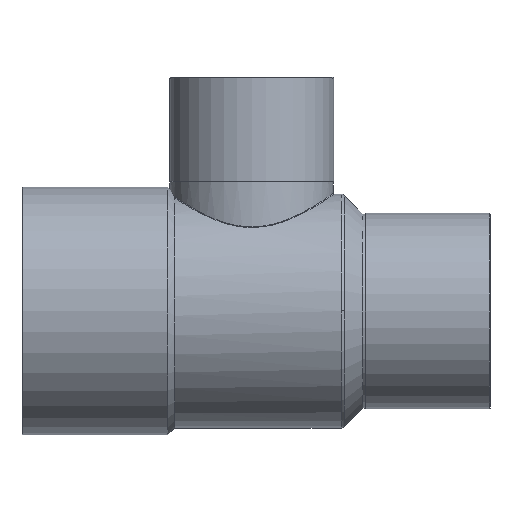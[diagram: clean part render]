
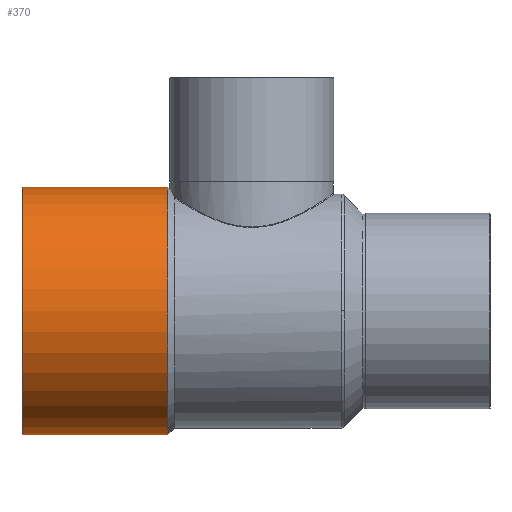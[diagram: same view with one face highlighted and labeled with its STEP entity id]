
A CAD part, top view. The second image highlights one B-rep face of the part: STEP entity #370.
In plain terms, the highlighted cylindrical face has radius 28.575 mm (diameter 57.15 mm), a partial arc.
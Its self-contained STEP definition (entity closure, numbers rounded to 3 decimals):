
#329=CARTESIAN_POINT('',(-36.189,0.0,0.0));
#330=DIRECTION('',(1.0,0.0,0.0));
#331=DIRECTION('',(0.0,1.0,0.0));
#332=AXIS2_PLACEMENT_3D('',#329,#330,#331);
#333=CYLINDRICAL_SURFACE('',#332,28.575);
#334=CARTESIAN_POINT('',(-52.8,28.575,0.));
#335=VERTEX_POINT('',#334);
#336=CARTESIAN_POINT('',(-19.379,28.575,0.0));
#337=VERTEX_POINT('',#336);
#338=CARTESIAN_POINT('',(-52.8,28.575,0.));
#339=DIRECTION('',(1.0,0.0,0.0));
#340=VECTOR('',#339,33.421);
#341=LINE('',#338,#340);
#342=EDGE_CURVE('',#335,#337,#341,.T.);
#343=ORIENTED_EDGE('',*,*,#342,.F.);
#344=CARTESIAN_POINT('',(-52.8,-28.575,0.));
#345=VERTEX_POINT('',#344);
#346=CARTESIAN_POINT('',(-52.8,0.0,0.0));
#347=DIRECTION('',(-1.0,0.0,0.0));
#348=DIRECTION('',(0.0,-1.0,0.0));
#349=AXIS2_PLACEMENT_3D('',#346,#347,#348);
#350=CIRCLE('',#349,28.575);
#351=EDGE_CURVE('',#345,#335,#350,.T.);
#352=ORIENTED_EDGE('',*,*,#351,.F.);
#353=CARTESIAN_POINT('',(-19.379,-28.575,0.));
#354=VERTEX_POINT('',#353);
#355=CARTESIAN_POINT('',(-19.379,-28.575,0.));
#356=DIRECTION('',(-1.0,0.0,0.0));
#357=VECTOR('',#356,33.421);
#358=LINE('',#355,#357);
#359=EDGE_CURVE('',#354,#345,#358,.T.);
#360=ORIENTED_EDGE('',*,*,#359,.F.);
#361=CARTESIAN_POINT('',(-19.379,0.0,0.0));
#362=DIRECTION('',(1.0,0.0,0.0));
#363=DIRECTION('',(0.0,1.0,0.0));
#364=AXIS2_PLACEMENT_3D('',#361,#362,#363);
#365=CIRCLE('',#364,28.575);
#366=EDGE_CURVE('',#337,#354,#365,.T.);
#367=ORIENTED_EDGE('',*,*,#366,.F.);
#368=EDGE_LOOP('',(#343,#352,#360,#367));
#369=FACE_OUTER_BOUND('',#368,.T.);
#370=ADVANCED_FACE('',(#369),#333,.T.);
